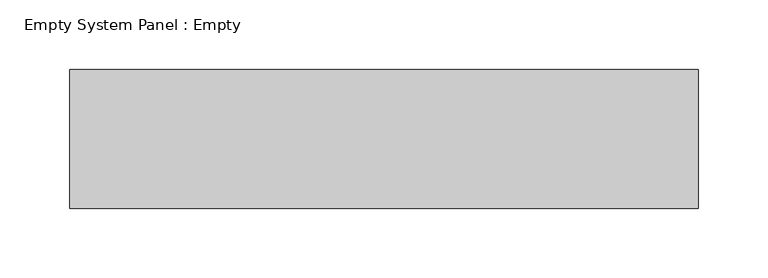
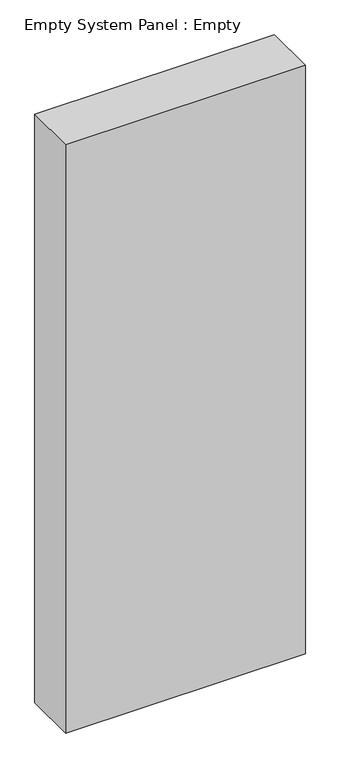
"""IFC4 building model written with IfcOpenShell, lengths in millimetres: plate geometry, Empty System Panel : Empty."""

from ifc_helpers import new_model, si_unit, origin, origin_with_axes, place, context, project, spatial, polyline, outline, extrude, source, transform, mapped, element, save


def empty_system_panel_empty_f63fde6b(model_context):
    return source(origin(), model_context, "Body", "SweptSolid", [
        extrude(outline(polyline([(226.25, -50.0), (-226.25, -50.0), (-226.25, 50.0), (226.25, 50.0), (226.25, -50.0)])), origin_with_axes(), (0.0, 0.0, 1.0), 1172.5),
    ])


if __name__ == "__main__":
    model = new_model("IFC4")
    model_context = context("Model", 3, world=origin())
    ifc_project = project(units=[si_unit("LENGTHUNIT", "METRE", prefix="MILLI")], contexts=[model_context])
    site = spatial("IfcSite", under=ifc_project)
    building = spatial("IfcBuilding", under=site)
    placement = place(None, origin())
    empty_system_panel_empty_shape = empty_system_panel_empty_f63fde6b(model_context)
    element("IfcPlate", 1, ObjectType="Empty System Panel : Empty", at=placement, inside=building, context=model_context, shape_type="MappedRepresentation", body=[
        mapped(empty_system_panel_empty_shape, transform((0.0, 0.0, 0.0), x_axis=(1.0, 0.0, 0.0), y_axis=(0.0, 1.0, 0.0), z_axis=(0.0, 0.0, 1.0))),
    ])
    save(model, "model.ifc")
